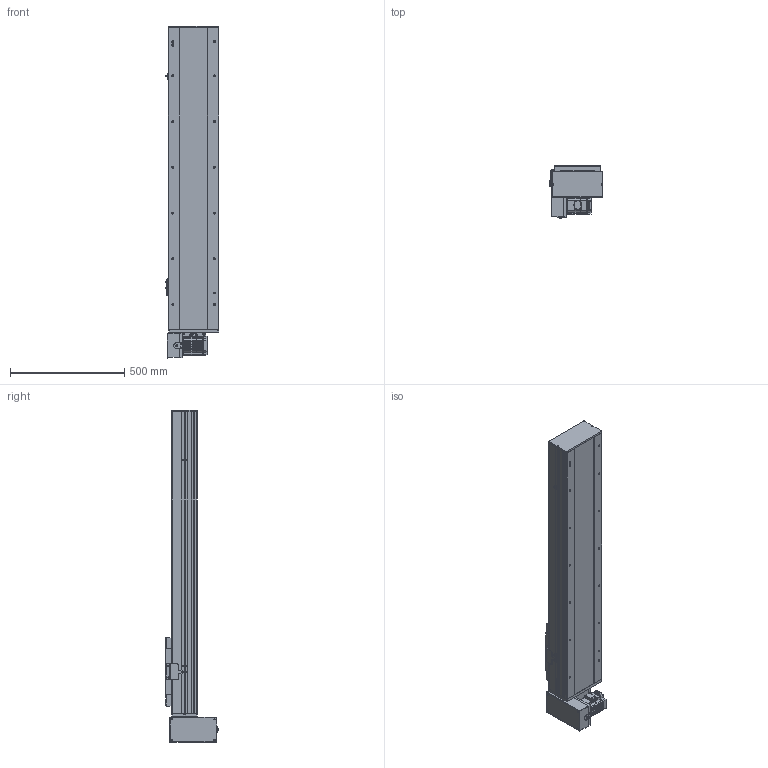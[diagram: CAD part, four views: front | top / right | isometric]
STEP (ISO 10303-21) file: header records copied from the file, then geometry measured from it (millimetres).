
FILE_DESCRIPTION (( 'STEP AP214' ), '1' );
FILE_NAME ('TPE22-L40-900-RD-T75-C4.STEP', '2023-04-12T11:20:21', ( '' ), ( '' ), 'SwSTEP 2.0', 'SolidWorks 2020', '' );
FILE_SCHEMA (( 'AUTOMOTIVE_DESIGN' ));
Length unit declared in the file: millimetre
Products named in the file (10): 葩璃 TPE22-L-001 菁釱MZ-220-01^TPE22-L40-RD-T75-C4; TPE22-L40-900-RD-T75-C4; 葩璃 TPE22-L-007 々湍釱^TPE22-L40-RD-T75-C4; 葩璃 pm-t65-672^TPE22-L40-RD-T75-C4; 葩璃 MSMD08PC_P75^TPE22-L40-RD-T75-C4; 葩璃 詩湍150^TPE22-L40-RD-T75-C4; 葩璃 TPE22 賑雄殤^TPE22-L40-RD-T75-C4; hexagon head bolts-full thread gb_GB_FASTENER_BOLT_STBAB A M5X16-N; 葩璃 TPT22-L-009 萇儂啣^TPE22-L40-RD-T75-C4; 葩璃 TPE22-L-002 耜裔ZTMZ-220-04^TPE22-L40-RD-T75-C4
Assembly tree (12 placements, depth 2):
  TPE22-L40-900-RD-T75-C4
    葩璃 TPE22-L-001 菁釱MZ-220-01^TPE22-L40-RD-T75-C4
    葩璃 TPE22-L-002 耜裔ZTMZ-220-04^TPE22-L40-RD-T75-C4  x2
    葩璃 詩湍150^TPE22-L40-RD-T75-C4
    葩璃 TPE22-L-007 々湍釱^TPE22-L40-RD-T75-C4
    葩璃 TPT22-L-009 萇儂啣^TPE22-L40-RD-T75-C4
    葩璃 TPE22 賑雄殤^TPE22-L40-RD-T75-C4
    葩璃 pm-t65-672^TPE22-L40-RD-T75-C4  x3
    葩璃 MSMD08PC_P75^TPE22-L40-RD-T75-C4
    hexagon head bolts-full thread gb_GB_FASTENER_BOLT_STBAB A M5X16-N
Bounding box: 233.7 x 229.65 x 1452 mm (x, y, z)
Volume: 16581764.7 mm3; surface area: 2546132.6 mm2
Topology: 22 solids, 22 shells, 1741 faces, 4579 edges, 2925 vertices
Faces by surface type: plane 1039, cylinder 568, cone 104, bspline 30
Entity records: 49154 total; most frequent: CARTESIAN_POINT 10203, DIRECTION 7730, ORIENTED_EDGE 7654, EDGE_CURVE 3827, VECTOR 2616, LINE 2616, AXIS2_PLACEMENT_3D 2557, VERTEX_POINT 2469
